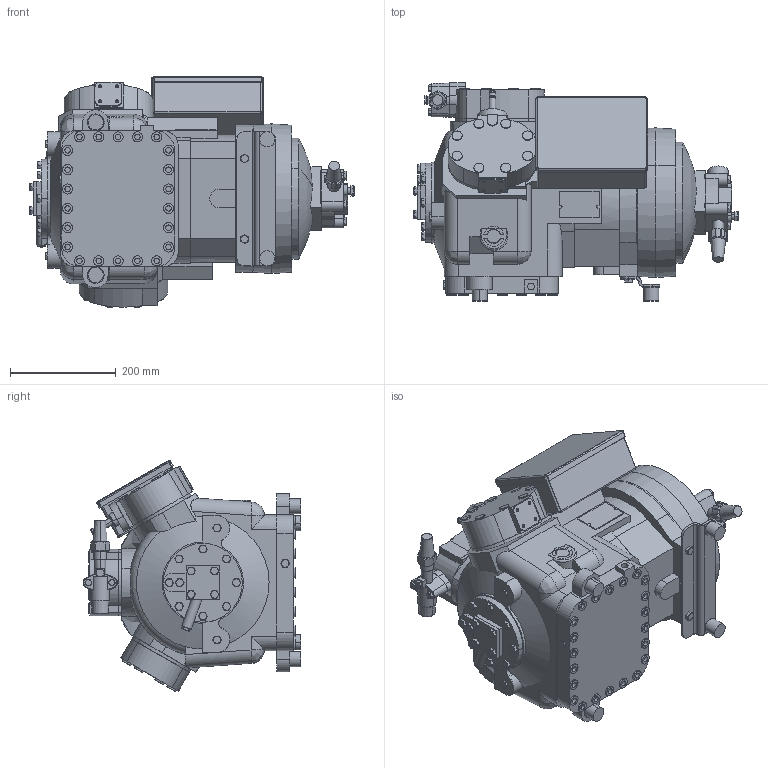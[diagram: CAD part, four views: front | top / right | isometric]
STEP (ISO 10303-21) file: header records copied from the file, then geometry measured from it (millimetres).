
FILE_DESCRIPTION((''),'2;1');
FILE_NAME('PRT0002','2004-01-23T',('girish.c'),(''),'PRO/ENGINEER BY PARAMETRIC TECHNOLOGY CORPORATION, 2003161','PRO/ENGINEER BY PARAMETRIC TECHNOLOGY CORPORATION, 2003161','');
FILE_SCHEMA(('CONFIG_CONTROL_DESIGN','SHAPE_APPEARANCE_LAYERS_GROUPS'));
Length unit declared in the file: inch
Products named in the file (1): PRT0002
Bounding box: 613.08 x 412.35 x 437.04 mm (x, y, z)
Volume: 26228086.7 mm3; surface area: 1402563.7 mm2
Topology: 4 solids, 50 shells, 1095 faces, 2949 edges, 1969 vertices
Faces by surface type: plane 528, cylinder 355, cone 182, bspline 20, torus 6, sphere 4
Entity records: 47583 total; most frequent: CARTESIAN_POINT 11496, ORIENTED_EDGE 5368, DIRECTION 5078, EDGE_CURVE 2949, PRESENTATION_STYLE_ASSIGNMENT 2807, STYLED_ITEM 2699, CURVE_STYLE 2498, VERTEX_POINT 1969
